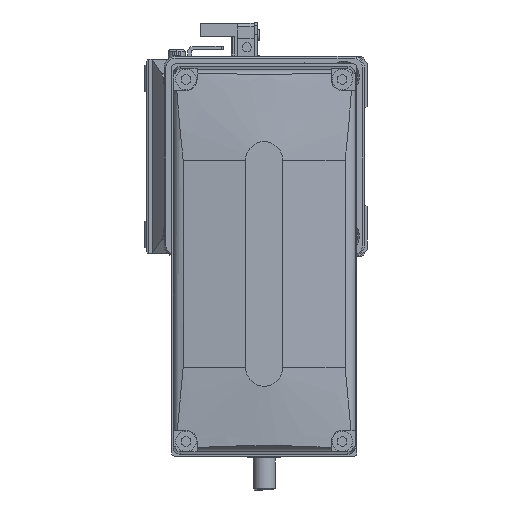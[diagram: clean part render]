
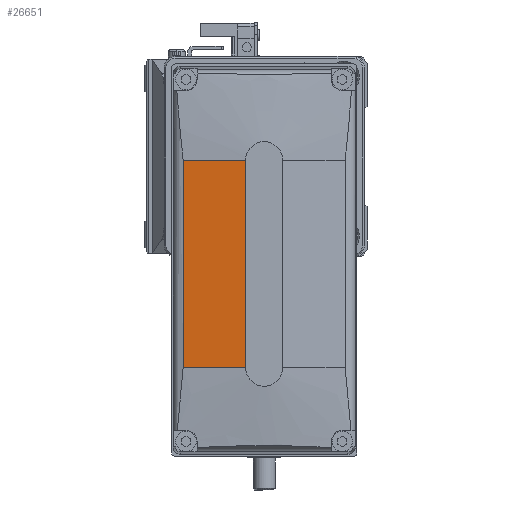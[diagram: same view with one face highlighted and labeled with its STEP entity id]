
A CAD part, left-side view. The second image highlights one B-rep face of the part: STEP entity #26651.
In plain terms, the highlighted planar face has unit normal (-0.996, 0.087, 0) as drawn and (-0.996, 0, -0.087) by its records, which use the part's own axes.
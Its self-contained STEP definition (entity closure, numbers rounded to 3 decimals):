
#1301 = VECTOR ( 'NONE', #27068, 1000. ) ;
#1783 = AXIS2_PLACEMENT_3D ( 'NONE', #9209, #15186, #12084 ) ;
#2227 = VERTEX_POINT ( 'NONE', #5661 ) ;
#4539 = ORIENTED_EDGE ( 'NONE', *, *, #16007, .F. ) ;
#4797 = LINE ( 'NONE', #25592, #19683 ) ;
#4964 = CARTESIAN_POINT ( 'NONE',  ( -50., 28., -5. ) ) ;
#5661 = CARTESIAN_POINT ( 'NONE',  ( -48.525, -28., -21.861 ) ) ;
#8276 = ORIENTED_EDGE ( 'NONE', *, *, #28320, .F. ) ;
#8282 = VECTOR ( 'NONE', #31680, 1000. ) ;
#8900 = VERTEX_POINT ( 'NONE', #21180 ) ;
#9209 = CARTESIAN_POINT ( 'NONE',  ( -50., 128., -5. ) ) ;
#10348 = VERTEX_POINT ( 'NONE', #20939 ) ;
#11074 = LINE ( 'NONE', #15047, #1301 ) ;
#12084 = DIRECTION ( 'NONE',  ( -0.087, 0., 0.996 ) ) ;
#12216 = EDGE_CURVE ( 'NONE', #10348, #2227, #4797, .T. ) ;
#13620 = DIRECTION ( 'NONE',  ( 0., 1., 0. ) ) ;
#15047 = CARTESIAN_POINT ( 'NONE',  ( 43606.406, 28., -499000. ) ) ;
#15186 = DIRECTION ( 'NONE',  ( -0.996, 0., -0.087 ) ) ;
#16007 = EDGE_CURVE ( 'NONE', #2227, #8900, #18535, .T. ) ;
#18166 = PLANE ( 'NONE',  #1783 ) ;
#18535 = LINE ( 'NONE', #28837, #8282 ) ;
#19683 = VECTOR ( 'NONE', #34503, 1000. ) ;
#20939 = CARTESIAN_POINT ( 'NONE',  ( -50., -28., -5. ) ) ;
#21016 = ORIENTED_EDGE ( 'NONE', *, *, #22995, .T. ) ;
#21180 = CARTESIAN_POINT ( 'NONE',  ( -48.525, 28., -21.861 ) ) ;
#22995 = EDGE_CURVE ( 'NONE', #10348, #27505, #32745, .T. ) ;
#24686 = FACE_OUTER_BOUND ( 'NONE', #31676, .T. ) ;
#25244 = CARTESIAN_POINT ( 'NONE',  ( -50., 128., -5. ) ) ;
#25592 = CARTESIAN_POINT ( 'NONE',  ( 43606.406, -28., -499000. ) ) ;
#26651 = ADVANCED_FACE ( 'NONE', ( #24686 ), #18166, .T. ) ;
#27068 = DIRECTION ( 'NONE',  ( -0.087, 0., 0.996 ) ) ;
#27505 = VERTEX_POINT ( 'NONE', #4964 ) ;
#28320 = EDGE_CURVE ( 'NONE', #8900, #27505, #11074, .T. ) ;
#28837 = CARTESIAN_POINT ( 'NONE',  ( -48.525, 128., -21.861 ) ) ;
#31676 = EDGE_LOOP ( 'NONE', ( #8276, #4539, #36915, #21016 ) ) ;
#31680 = DIRECTION ( 'NONE',  ( 0., 1., 0. ) ) ;
#32745 = LINE ( 'NONE', #25244, #33218 ) ;
#33218 = VECTOR ( 'NONE', #13620, 1000. ) ;
#34503 = DIRECTION ( 'NONE',  ( 0.087, 0., -0.996 ) ) ;
#36915 = ORIENTED_EDGE ( 'NONE', *, *, #12216, .F. ) ;
